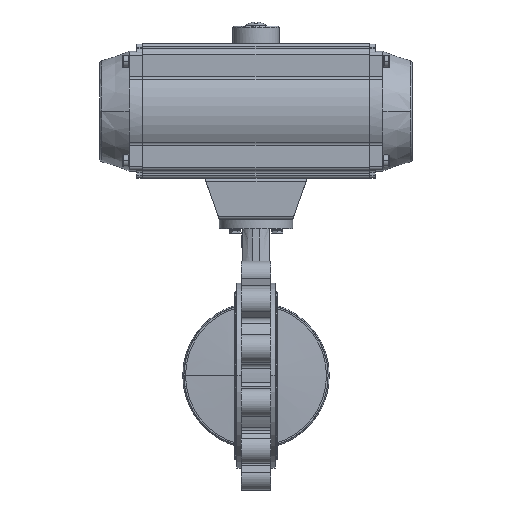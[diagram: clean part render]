
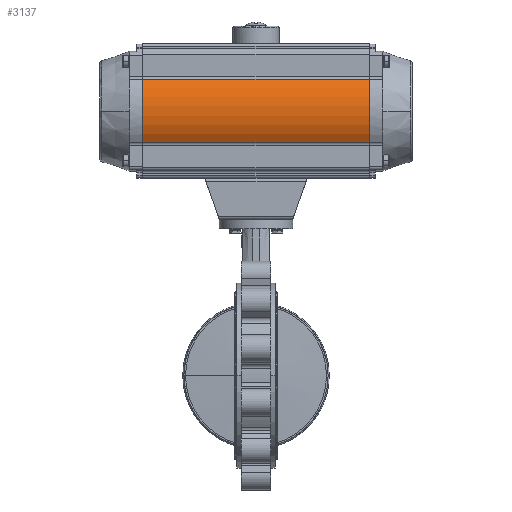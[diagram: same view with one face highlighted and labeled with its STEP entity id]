
A CAD part, top view. The second image highlights one B-rep face of the part: STEP entity #3137.
In plain terms, the highlighted cylindrical face has radius 103 mm (diameter 206 mm), a partial arc.
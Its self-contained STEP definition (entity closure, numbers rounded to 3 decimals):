
#380 = ORIENTED_EDGE ( 'NONE', *, *, #51306, .T. ) ;
#543 = DIRECTION ( 'NONE',  ( 0., 0., -1. ) ) ;
#3137 = ADVANCED_FACE ( 'NONE', ( #58428 ), #9802, .F. ) ;
#3248 = VERTEX_POINT ( 'NONE', #63533 ) ;
#8089 = DIRECTION ( 'NONE',  ( 1., 0., 0. ) ) ;
#8472 = DIRECTION ( 'NONE',  ( 1., 0., 0. ) ) ;
#9802 = CYLINDRICAL_SURFACE ( 'NONE', #19494, 103. ) ;
#13801 = VERTEX_POINT ( 'NONE', #70621 ) ;
#15359 = CARTESIAN_POINT ( 'NONE',  ( -194., 506.332, 87.504 ) ) ;
#15675 = CARTESIAN_POINT ( 'NONE',  ( 194., 452., 0. ) ) ;
#18135 = DIRECTION ( 'NONE',  ( 1., 0., 0. ) ) ;
#18505 = VECTOR ( 'NONE', #8089, 1000. ) ;
#19328 = ORIENTED_EDGE ( 'NONE', *, *, #38920, .F. ) ;
#19494 = AXIS2_PLACEMENT_3D ( 'NONE', #71638, #46507, #70847 ) ;
#22957 = CARTESIAN_POINT ( 'NONE',  ( 194., 397.668, 87.504 ) ) ;
#25507 = EDGE_CURVE ( 'NONE', #3248, #13801, #52611, .T. ) ;
#33699 = EDGE_LOOP ( 'NONE', ( #380, #19328, #76562, #72705 ) ) ;
#34198 = CARTESIAN_POINT ( 'NONE',  ( -194., 452., 0. ) ) ;
#38539 = CARTESIAN_POINT ( 'NONE',  ( 194., 506.332, 87.504 ) ) ;
#38920 = EDGE_CURVE ( 'NONE', #13801, #39603, #67979, .T. ) ;
#39603 = VERTEX_POINT ( 'NONE', #22957 ) ;
#39673 = DIRECTION ( 'NONE',  ( -1., 0., 0. ) ) ;
#41257 = LINE ( 'NONE', #15359, #56214 ) ;
#44438 = CARTESIAN_POINT ( 'NONE',  ( -699.797, 397.668, 87.504 ) ) ;
#46266 = AXIS2_PLACEMENT_3D ( 'NONE', #34198, #18135, #543 ) ;
#46507 = DIRECTION ( 'NONE',  ( 1., 0., 0. ) ) ;
#50054 = AXIS2_PLACEMENT_3D ( 'NONE', #15675, #8472, #52333 ) ;
#51306 = EDGE_CURVE ( 'NONE', #52915, #39603, #66589, .T. ) ;
#52333 = DIRECTION ( 'NONE',  ( 0., 0., -1. ) ) ;
#52611 = CIRCLE ( 'NONE', #46266, 103. ) ;
#52915 = VERTEX_POINT ( 'NONE', #38539 ) ;
#56214 = VECTOR ( 'NONE', #39673, 1000. ) ;
#56259 = EDGE_CURVE ( 'NONE', #52915, #3248, #41257, .T. ) ;
#58428 = FACE_OUTER_BOUND ( 'NONE', #33699, .T. ) ;
#63533 = CARTESIAN_POINT ( 'NONE',  ( -194., 506.332, 87.504 ) ) ;
#66589 = CIRCLE ( 'NONE', #50054, 103. ) ;
#67979 = LINE ( 'NONE', #44438, #18505 ) ;
#70621 = CARTESIAN_POINT ( 'NONE',  ( -194., 397.668, 87.504 ) ) ;
#70847 = DIRECTION ( 'NONE',  ( 0., 0., -1. ) ) ;
#71638 = CARTESIAN_POINT ( 'NONE',  ( -194., 452., 0. ) ) ;
#72705 = ORIENTED_EDGE ( 'NONE', *, *, #56259, .F. ) ;
#76562 = ORIENTED_EDGE ( 'NONE', *, *, #25507, .F. ) ;
